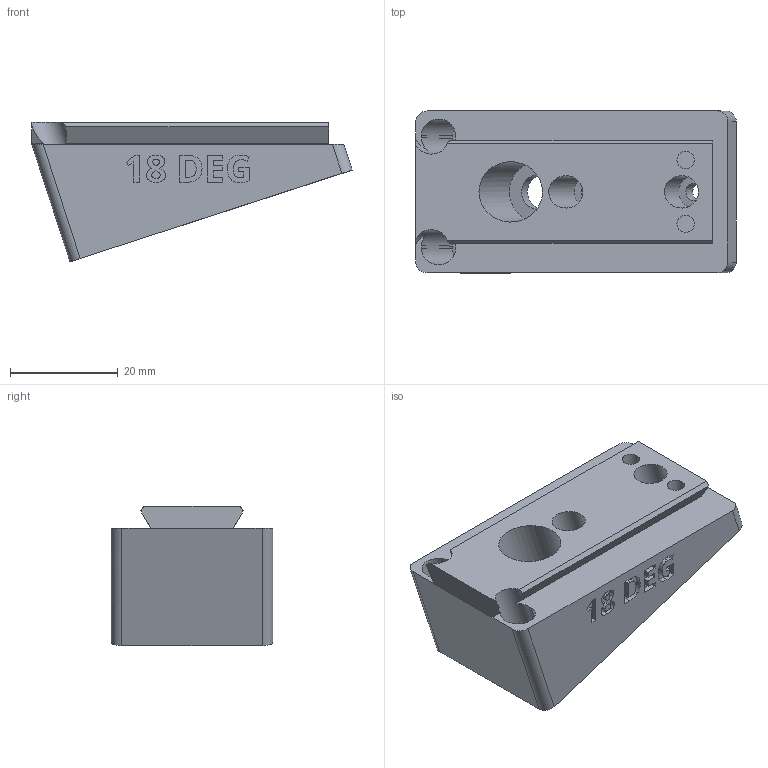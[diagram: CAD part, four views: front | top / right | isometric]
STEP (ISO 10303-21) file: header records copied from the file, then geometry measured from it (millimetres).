
FILE_DESCRIPTION(/* description */ ('STEP AP242 Edition 2','CAx-IF Rec.Pracs.---Representation and Presentation of Product Manufacturing Information (PMI)---4.0---2014-10-13','CAx-IF Rec.Pracs.---3D Tessellated Geometry---0.4---2014-09-14','2;1','CAx-IF Rec.Pracs.---User Defined Attributes---1.5---2016-08-15'),/* implementation_level */ '2;1');
FILE_NAME(/* name */ 'Camera Wedges - CAMERA MOUNTING WEDGE, POS, 18 DEG',/* time_stamp */ '2026-07-08T20:38:10Z',/* author */ (''),/* organization */ (''),/* preprocessor_version */ 'ST-DEVELOPER v20',/* originating_system */ 'ONSHAPE BY PTC INC, 1.217',/* authorisation */ ' ');
FILE_SCHEMA (('AP242_MANAGED_MODEL_BASED_3D_ENGINEERING_MIM_LF { 1 0 10303 442 3 1 4 }'));
Length unit declared in the file: metre
Products named in the file (1): CAMERA MOUNTING WEDGE, POS, 18 DEG
Bounding box: 59.38 x 30 x 25.85 mm (x, y, z)
Volume: 22178.8 mm3; surface area: 8721.1 mm2
Topology: 1 solids, 1 shells, 261 faces, 712 edges, 475 vertices
Faces by surface type: plane 133, bspline 80, cylinder 48
Full cylindrical faces by diameter (mm): 3.2 x4, 6 x2, 6.4 x1, 11.2 x1
Entity records: 8479 total; most frequent: CARTESIAN_POINT 2315, ORIENTED_EDGE 1402, DIRECTION 1015, EDGE_CURVE 701, VERTEX_POINT 472, LINE 431, VECTOR 431, EDGE_LOOP 301
